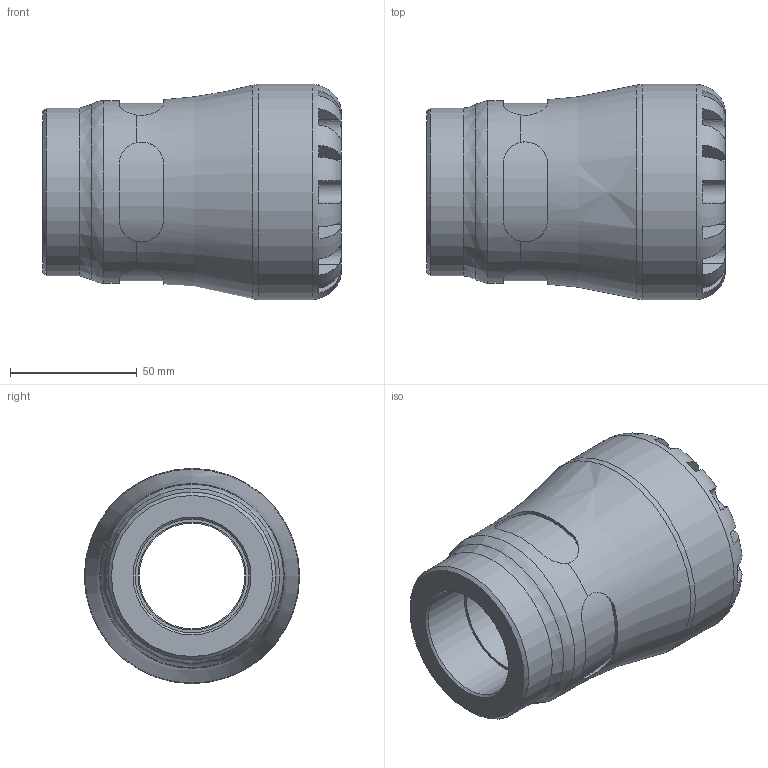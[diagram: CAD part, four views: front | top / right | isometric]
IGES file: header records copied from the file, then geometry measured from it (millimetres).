
Global section: file name: 107300050015_197300050015.ipt; native system: Autodesk Inventor 2015; preprocessor: unknown; author: KIM; date: 20170122.113634; units: millimetre
Bounding box: 118 x 85 x 85 mm (x, y, z)
Volume: 317248.6 mm3; surface area: 54096.9 mm2
Topology: 1 solids, 1 shells, 104 faces, 279 edges, 180 vertices
Faces by surface type: plane 61, revolution 27, cylinder 15, cone 1
Full cylindrical faces by diameter (mm): 66.3 x1, 72.25 x1, 85 x1
